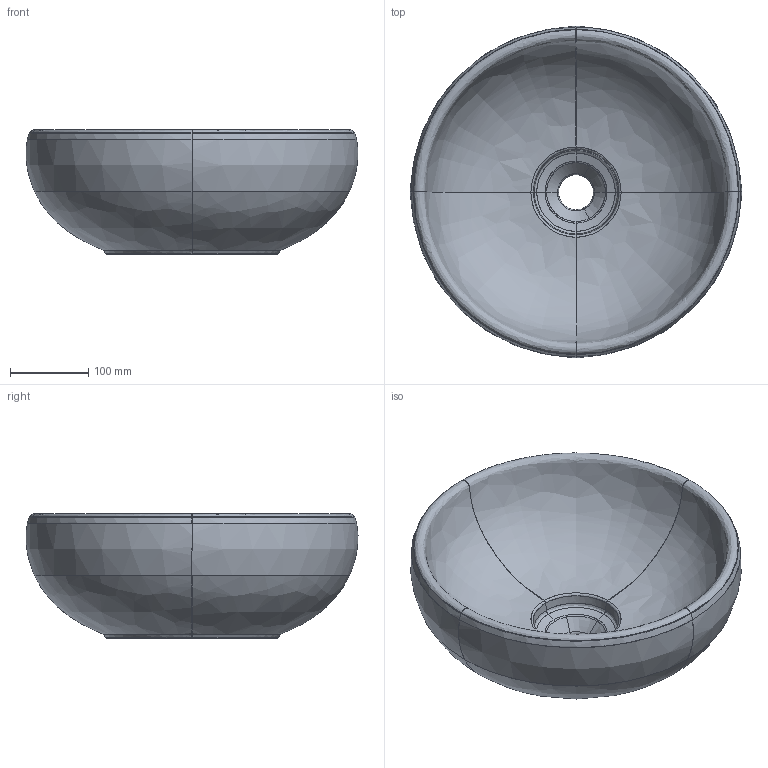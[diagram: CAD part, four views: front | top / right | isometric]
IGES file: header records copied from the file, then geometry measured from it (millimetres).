
Start section: START RECORD GO HERE.
Global section: file name: Catino 42 appog.igs; native system: IBM CATIA IGES - CATIA Version 5 Release 17 ; preprocessor: CATIA Version 5 Release 17 ; author: Luca; organization: PC-Luca; date: 20121108.151149; units: millimetre
Bounding box: 423.23 x 423.23 x 158.78 mm (x, y, z)
Surface area: 478828.3 mm2 (no closed solid volume)
Topology: 0 solids, 0 shells, 215 faces, 944 edges, 944 vertices
Faces by surface type: bspline 215
